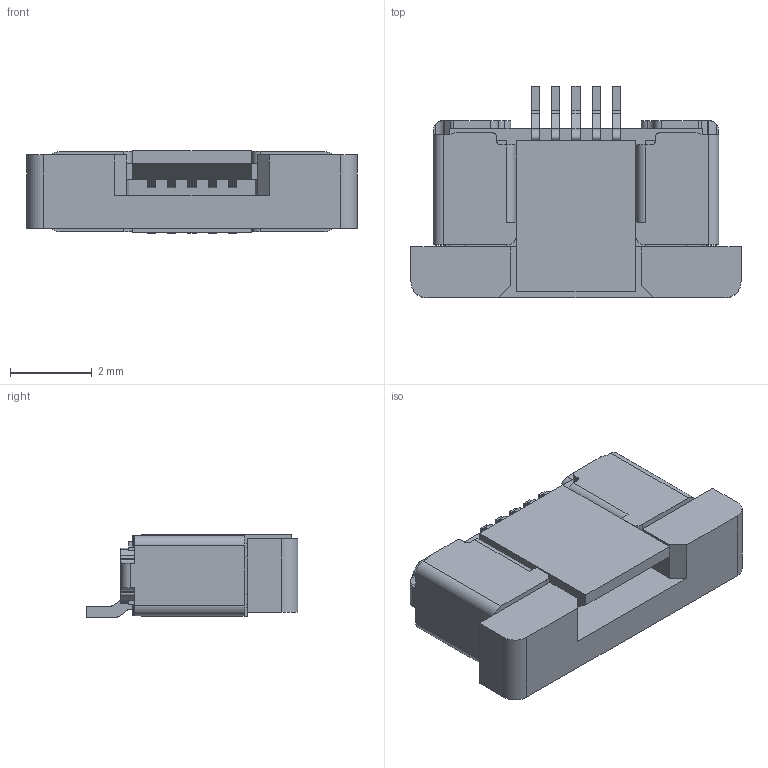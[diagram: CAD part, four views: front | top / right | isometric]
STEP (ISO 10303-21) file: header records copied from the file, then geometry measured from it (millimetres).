
FILE_DESCRIPTION(('FreeCAD Model'),'2;1');
FILE_NAME('Open CASCADE Shape Model','2026-09-06T22:16:43',('FreeCAD'),( 'FreeCAD'),'Open CASCADE STEP processor 7.8','FreeCAD','Unknown');
FILE_SCHEMA(('AUTOMOTIVE_DESIGN { 1 0 10303 214 1 1 1 1 }'));
Length unit declared in the file: millimetre
Products named in the file (1): Open CASCADE STEP translator 7.8 1
Bounding box: 8.1 x 5.2 x 2.02 mm (x, y, z)
Volume: 54.1 mm3; surface area: 147.6 mm2
Topology: 6 solids, 6 shells, 325 faces, 923 edges, 610 vertices
Faces by surface type: plane 233, cylinder 88, extrusion 4
Entity records: 10649 total; most frequent: CARTESIAN_POINT 2039, ORIENTED_EDGE 1846, DIRECTION 1739, EDGE_CURVE 923, VECTOR 743, LINE 739, VERTEX_POINT 610, AXIS2_PLACEMENT_3D 498
